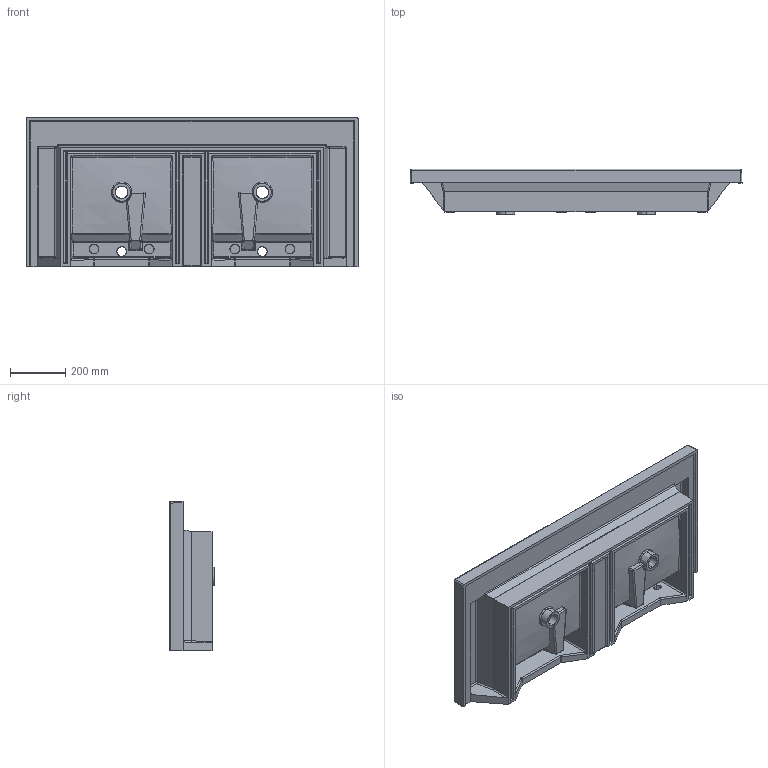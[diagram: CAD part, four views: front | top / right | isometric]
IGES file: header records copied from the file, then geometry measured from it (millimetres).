
Start section: SolidWorks IGES file using analytic representation for surfaces
Global section: file name: K:\lavabi tecla 3D IGS\p. MARS (5)\MARS 54x120MAR04011.IGS; native system: SolidWorks 2013; preprocessor: SolidWorks 2013; author: UTENTE 1; date: 140521.172502; units: millimetre
Bounding box: 1203.49 x 165 x 541.75 mm (x, y, z)
Surface area: 2363227.2 mm2 (no closed solid volume)
Topology: 0 solids, 0 shells, 389 faces, 5569 edges, 5554 vertices
Faces by surface type: revolution 214, bspline 175
